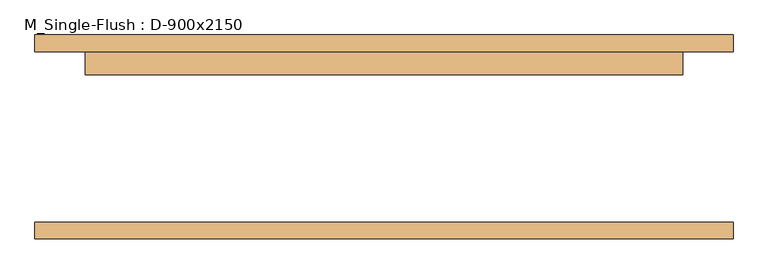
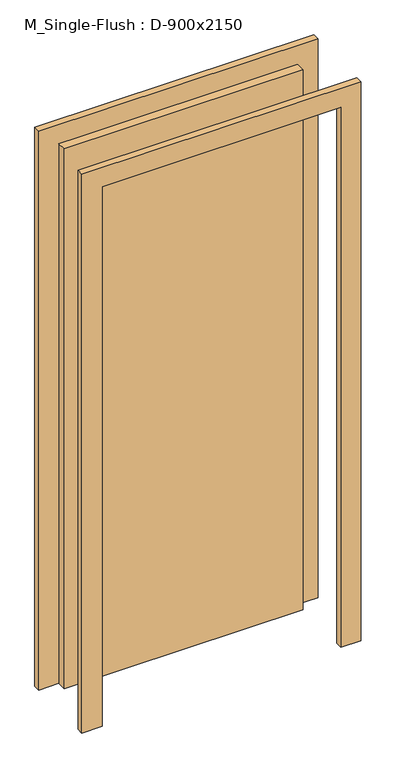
"""IFC4 building model written with IfcOpenShell, lengths in millimetres: door geometry, M_Single-Flush : D-900x2150."""

import ifcopenshell
import ifcopenshell.guid

model = None  # the IFC model being written
_history = None  # IfcOwnerHistory: only IFC2X3 demands one
_inside = {}  # id of a spatial element -> (the spatial element, [elements in it])
_under = {}  # id of a project, library or spatial element -> (it, [spatial elements below it])
_declared = {}  # id of a project -> (the project, [libraries it declares])
_typed = {}  # id of a type object -> (the type object, [elements of that type])
_made_of = {}  # id of a material, layer set ... -> (it, [elements and type objects made of it])


def new_model(schema):
    """Start an empty IFC model of exactly this schema.

    Asked for "IFC4X3", IfcOpenShell would pick the latest addendum, in which some entities
    have other attributes; the version numbers below select the first issue.
    IFC2X3 requires an IfcOwnerHistory on every rooted entity: one is made here for all.
    """
    global model, _history
    if schema == "IFC4X3":
        model = ifcopenshell.file(schema_version=(4, 3, 0, 0))
    else:
        model = ifcopenshell.file(schema=schema)
    _inside.clear()
    _under.clear()
    _declared.clear()
    _typed.clear()
    _made_of.clear()
    _history = None
    if model.schema == "IFC2X3":
        org = make("IfcOrganization", Name="unknown")
        user = make(
            "IfcPersonAndOrganization",
            ThePerson=make("IfcPerson", FamilyName="unknown"),
            TheOrganization=org,
        )
        app = make(
            "IfcApplication",
            ApplicationDeveloper=org,
            Version="unknown",
            ApplicationFullName="unknown",
            ApplicationIdentifier="unknown",
        )
        _history = make(
            "IfcOwnerHistory",
            OwningUser=user,
            OwningApplication=app,
            ChangeAction="ADDED",
            CreationDate=0,
        )
    return model


def make(cls, **values):
    """One entity of the class cls with the attributes given. An attribute that is None is left unset."""
    return model.create_entity(
        cls, **{name: value for name, value in values.items() if value is not None}
    )


def rooted(cls, **values):
    """An entity with a GlobalId (a new one), such as an element, a storey or a relation."""
    return make(cls, GlobalId=ifcopenshell.guid.new(), OwnerHistory=_history, **values)


def si_unit(unit_type, name, prefix=None):
    """IfcSIUnit, for example si_unit("LENGTHUNIT", "METRE", prefix="MILLI")."""
    return make("IfcSIUnit", UnitType=unit_type, Prefix=prefix, Name=name)


def assignment(units):
    """IfcUnitAssignment: the units of a project."""
    return None if units is None else make("IfcUnitAssignment", Units=units)


def point(xyz):
    """IfcCartesianPoint."""
    return None if xyz is None else make("IfcCartesianPoint", Coordinates=xyz)


def direction(xyz):
    """IfcDirection."""
    return None if xyz is None else make("IfcDirection", DirectionRatios=xyz)


def frame(location, z_axis=None, x_axis=None):
    """IfcAxis2Placement3D, a coordinate frame: its origin and axes. An axis left out is left unset."""
    return make(
        "IfcAxis2Placement3D",
        Location=point(location),
        Axis=direction(z_axis),
        RefDirection=direction(x_axis),
    )


def origin():
    """The frame at (0, 0, 0) with its axes left unset."""
    return frame((0.0, 0.0, 0.0))


def origin_with_axes():
    """The frame at (0, 0, 0) with the z axis (0, 0, 1) and the x axis (1, 0, 0) written out."""
    return frame((0.0, 0.0, 0.0), z_axis=(0.0, 0.0, 1.0), x_axis=(1.0, 0.0, 0.0))


def place(relative_to, where):
    """IfcLocalPlacement: puts the frame where relative to a parent placement (None: the world)."""
    return make(
        "IfcLocalPlacement", PlacementRelTo=relative_to, RelativePlacement=where
    )


def context(
    kind, dimensions, precision=None, world=None, true_north=None, identifier=None
):
    """IfcGeometricRepresentationContext, for example the 3D "Model" context."""
    return make(
        "IfcGeometricRepresentationContext",
        ContextIdentifier=identifier,
        ContextType=kind,
        CoordinateSpaceDimension=dimensions,
        Precision=precision,
        WorldCoordinateSystem=world,
        TrueNorth=true_north,
    )


def project(units=None, contexts=None):
    """IfcProject with its units and contexts."""
    return rooted(
        "IfcProject",
        Name="project",
        RepresentationContexts=contexts,
        UnitsInContext=assignment(units),
    )


def spatial(cls, under=None, at=None, **own):
    """A site, building, storey or space (cls), placed at a placement, below another one or the project."""
    s = rooted(cls, ObjectPlacement=at, **own)
    if under is not None:
        _under.setdefault(under.id(), (under, []))[1].append(s)
    return s


def polyline(points):
    """IfcPolyline through the points."""
    return make("IfcPolyline", Points=[point(p) for p in points])


def outline(outer, holes=None, kind="AREA"):
    """IfcArbitraryClosedProfileDef: a profile drawn as a closed curve; with holes, ...WithVoids."""
    if holes is None:
        return make("IfcArbitraryClosedProfileDef", ProfileType=kind, OuterCurve=outer)
    return make(
        "IfcArbitraryProfileDefWithVoids",
        ProfileType=kind,
        OuterCurve=outer,
        InnerCurves=holes,
    )


def extrude(swept, where, along, depth):
    """IfcExtrudedAreaSolid: the profile swept, set in the frame where, extruded along a direction by depth."""
    return make(
        "IfcExtrudedAreaSolid",
        SweptArea=swept,
        Position=where,
        ExtrudedDirection=direction(along),
        Depth=depth,
    )


def shape(context_of_items, identifier, shape_type, items):
    """IfcShapeRepresentation: the items that make up one representation, for example the "Body"."""
    return make(
        "IfcShapeRepresentation",
        ContextOfItems=context_of_items,
        RepresentationIdentifier=identifier,
        RepresentationType=shape_type,
        Items=items,
    )


def source(mapping_origin, context_of_items, identifier, shape_type, items):
    """IfcRepresentationMap: a shape defined once, which mapped items show again and again."""
    return make(
        "IfcRepresentationMap",
        MappingOrigin=mapping_origin,
        MappedRepresentation=shape(context_of_items, identifier, shape_type, items),
    )


def transform(
    local_origin,
    x_axis=None,
    y_axis=None,
    z_axis=None,
    scale=None,
    scale2=None,
    scale3=None,
    uniform=True,
):
    """IfcCartesianTransformationOperator3D, or its non-uniform kind. x_axis, y_axis, z_axis: its Axis1, 2, 3."""
    if uniform:
        return make(
            "IfcCartesianTransformationOperator3D",
            Axis1=direction(x_axis),
            Axis2=direction(y_axis),
            LocalOrigin=point(local_origin),
            Scale=scale,
            Axis3=direction(z_axis),
        )
    return make(
        "IfcCartesianTransformationOperator3DnonUniform",
        Axis1=direction(x_axis),
        Axis2=direction(y_axis),
        LocalOrigin=point(local_origin),
        Scale=scale,
        Axis3=direction(z_axis),
        Scale2=scale2,
        Scale3=scale3,
    )


def mapped(mapping_source, mapping_target):
    """IfcMappedItem: shows the shape of a source again, moved by a transform."""
    return make(
        "IfcMappedItem", MappingSource=mapping_source, MappingTarget=mapping_target
    )


def made_of(thing, what):
    """Note that an element or type object is made of a material, layer set ...; save() writes the relation."""
    if what is not None:
        _made_of.setdefault(what.id(), (what, []))[1].append(thing)
    return thing


def element(
    cls,
    number,
    at=None,
    inside=None,
    cuts=None,
    type_object=None,
    material=None,
    context=None,
    identifier="Body",
    shape_type=None,
    held_by="IfcProductDefinitionShape",
    body=None,
    shapes=None,
    **own,
):
    """One element of the class cls, such as IfcWall. Its Tag is "e" and its number.

    at: its placement. inside: the storey or other place that contains it. cuts: it is an
    opening in that element (IfcRelVoidsElement). A single representation is given by context,
    identifier, shape_type and body (its items); several are given by shapes. held_by: the class
    of the entity that holds the representations. save() writes the other relations.
    """
    e = rooted(cls, Tag="e%d" % number, ObjectPlacement=at, **own)
    if body is not None:
        shapes = [shape(context, identifier, shape_type, body)]
    if shapes is not None:
        e.Representation = make(held_by, Representations=shapes)
    if inside is not None:
        _inside.setdefault(inside.id(), (inside, []))[1].append(e)
    if cuts is not None:
        rooted(
            "IfcRelVoidsElement", RelatingBuildingElement=cuts, RelatedOpeningElement=e
        )
    if type_object is not None:
        _typed.setdefault(type_object.id(), (type_object, []))[1].append(e)
    return made_of(e, material)


def aggregate(whole, parts):
    """IfcRelAggregates: a whole, such as a stair, and the parts it consists of."""
    return rooted("IfcRelAggregates", RelatingObject=whole, RelatedObjects=parts)


def save(model, path):
    """Write the relations noted so far, then the file.

    IfcRelAggregates (storeys below a building ...), IfcRelContainedInSpatialStructure (elements
    in a storey), IfcRelDefinesByType, IfcRelAssociatesMaterial and IfcRelDeclares: one each for
    every whole, place, type object, material and project.
    """
    for whole, parts in _under.values():
        aggregate(whole, parts)
    for where, things in _inside.values():
        rooted(
            "IfcRelContainedInSpatialStructure",
            RelatedElements=things,
            RelatingStructure=where,
        )
    for kind, things in _typed.values():
        rooted("IfcRelDefinesByType", RelatedObjects=things, RelatingType=kind)
    for what, things in _made_of.values():
        rooted("IfcRelAssociatesMaterial", RelatedObjects=things, RelatingMaterial=what)
    for by, libraries in _declared.values():
        rooted("IfcRelDeclares", RelatingContext=by, RelatedDefinitions=libraries)
    model.write(path)


def m_single_flush_d_900x2150_0b8f236d(model_context):
    return source(origin(), model_context, "Body", "SweptSolid", [
        extrude(outline(polyline([(2226.0, -526.0), (0.0, -526.0), (0.0, -450.0), (2150.0, -450.0), (2150.0, 450.0), (0.0, 450.0), (0.0, 526.0), (2226.0, 526.0), (2226.0, -526.0)])), frame((0.0, 128.5, 0.0), z_axis=(0.0, 1.0, 0.0), x_axis=(0.0, 0.0, 1.0)), (0.0, 0.0, 1.0), 25.0),
        extrude(outline(polyline([(2226.0, 526.0), (2226.0, -526.0), (0.0, -526.0), (0.0, -450.0), (2150.0, -450.0), (2150.0, 450.0), (0.0, 450.0), (0.0, 526.0), (2226.0, 526.0)])), frame((0.0, -153.5, 0.0), z_axis=(0.0, 1.0, 0.0), x_axis=(0.0, 0.0, 1.0)), (0.0, 0.0, 1.0), 25.0),
        extrude(outline(polyline([(450.0, 93.5), (-450.0, 93.5), (-450.0, 128.5), (450.0, 128.5), (450.0, 93.5)])), origin_with_axes(), (0.0, 0.0, 1.0), 2150.0),
    ])


if __name__ == "__main__":
    model = new_model("IFC4")
    model_context = context("Model", 3, world=origin())
    ifc_project = project(units=[si_unit("LENGTHUNIT", "METRE", prefix="MILLI")], contexts=[model_context])
    site = spatial("IfcSite", under=ifc_project)
    building = spatial("IfcBuilding", under=site)
    placement = place(None, origin())
    m_single_flush_d_900x2150_shape = m_single_flush_d_900x2150_0b8f236d(model_context)
    element("IfcDoor", 1, ObjectType="M_Single-Flush : D-900x2150", at=placement, inside=building, context=model_context, shape_type="MappedRepresentation", body=[
        mapped(m_single_flush_d_900x2150_shape, transform((0.0, 0.0, 0.0), x_axis=(1.0, 0.0, 0.0), y_axis=(0.0, 1.0, 0.0), z_axis=(0.0, 0.0, 1.0))),
    ])
    save(model, "model.ifc")
